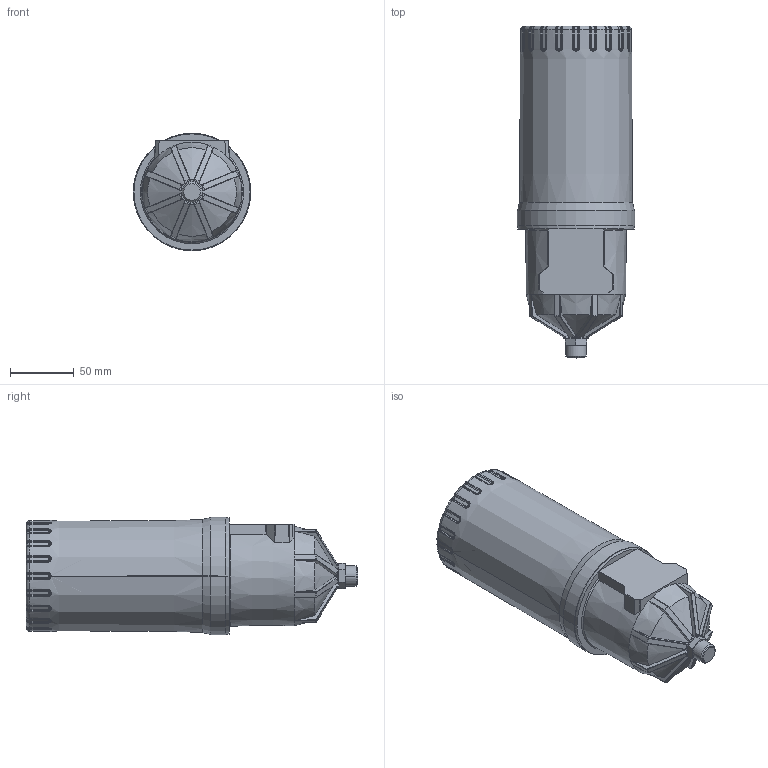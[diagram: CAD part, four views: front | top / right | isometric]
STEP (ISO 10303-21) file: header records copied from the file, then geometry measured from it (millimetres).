
FILE_DESCRIPTION((''),'2;1');
FILE_NAME('M2_500_SKIN_ASM','2023-02-14T10:45:11',('KLT'),(''),'CREO PARAMETRIC BY PTC INC, 2019352','CREO PARAMETRIC BY PTC INC, 2019352','');
FILE_SCHEMA(('CONFIG_CONTROL_DESIGN'));
Products named in the file (4): MAINBODY_M2; HOUSING500_M2; BUSH_M2; M2_500_SKIN_ASM
Assembly tree (3 placements, depth 2):
  M2_500_SKIN_ASM
    MAINBODY_M2
    HOUSING500_M2
    BUSH_M2
Bounding box: 92.12 x 260 x 92.12 mm (x, y, z)
Volume: 371024.4 mm3; surface area: 152380.8 mm2
Topology: 2 solids, 7 shells, 1367 faces, 3330 edges, 1908 vertices
Faces by surface type: bspline 626, cylinder 316, torus 208, plane 105, cone 92, sphere 20
Entity records: 70267 total; most frequent: CARTESIAN_POINT 43380, ORIENTED_EDGE 6606, DIRECTION 4310, EDGE_CURVE 3310, AXIS2_PLACEMENT_3D 1917, VERTEX_POINT 1908, B_SPLINE_CURVE_WITH_KNOTS 1667, EDGE_LOOP 1417
